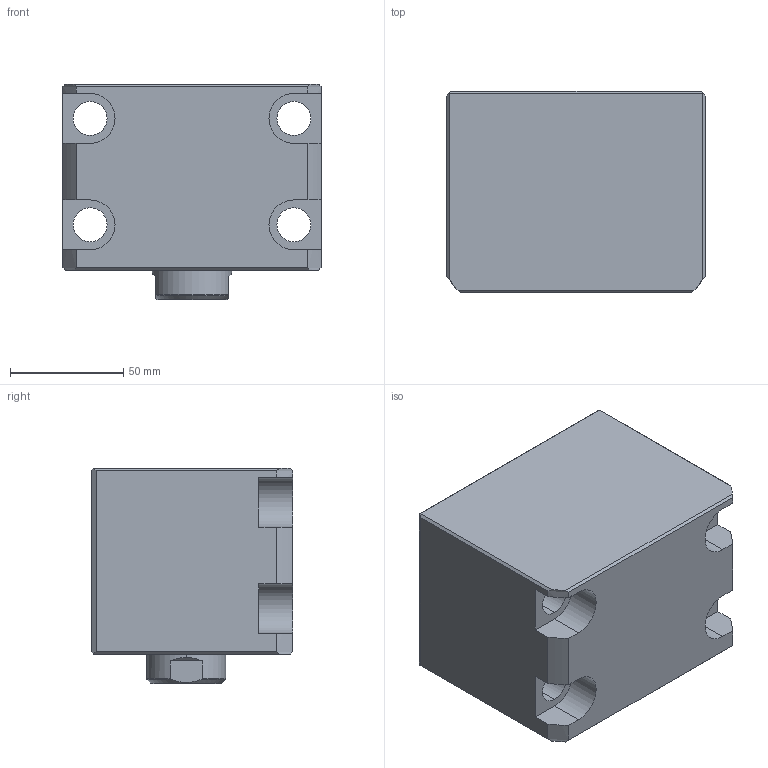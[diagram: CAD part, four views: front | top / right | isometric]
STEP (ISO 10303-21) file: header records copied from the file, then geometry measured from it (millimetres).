
FILE_DESCRIPTION (( 'STEP AP214' ), '1' );
FILE_NAME ('chtb-lam63x15n_asm.STEP', '2018-05-22T07:38:08', ( '' ), ( '' ), 'SwSTEP 2.0', 'SolidWorks 2016', '' );
FILE_SCHEMA (( 'AUTOMOTIVE_DESIGN' ));
Length unit declared in the file: millimetre
Products named in the file (4): CHTB-LAM63X15NBT; CHTB63X15NHSG; CHTB-63QG; chtb-lam63x15n_asm
Assembly tree (3 placements, depth 2):
  chtb-lam63x15n_asm
    CHTB-63QG
    CHTB63X15NHSG
    CHTB-LAM63X15NBT
Bounding box: 114 x 89 x 95 mm (x, y, z)
Volume: 719960.4 mm3; surface area: 120171.7 mm2
Topology: 3 solids, 3 shells, 170 faces, 506 edges, 344 vertices
Faces by surface type: cylinder 94, plane 47, bspline 13, cone 8, torus 8
Entity records: 18603 total; most frequent: CARTESIAN_POINT 14283, ORIENTED_EDGE 1000, DIRECTION 717, EDGE_CURVE 500, VERTEX_POINT 344, AXIS2_PLACEMENT_3D 267, EDGE_LOOP 192, VECTOR 183
